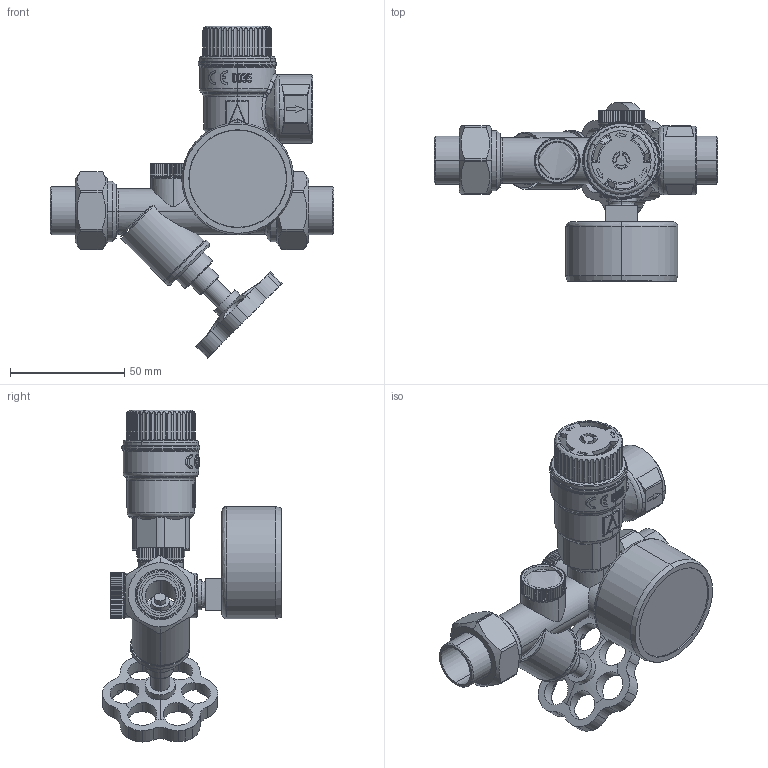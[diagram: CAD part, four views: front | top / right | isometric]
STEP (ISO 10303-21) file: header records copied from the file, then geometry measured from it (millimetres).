
FILE_DESCRIPTION (( 'STEP AP214' ), '1' );
FILE_NAME ('77999.STEP', '2022-05-16T12:06:56', ( '' ), ( '' ), 'SwSTEP 2.0', 'SolidWorks 2021', '' );
FILE_SCHEMA (( 'AUTOMOTIVE_DESIGN' ));
Length unit declared in the file: millimetre
Products named in the file (25): MANO; FEDERTRAEGER; 02_O-Ring; SPINDEL; Kst-Verschlussschraube G1_4 inkl. O-Ring_05 01 000678_2; MUTTER_2; 05 00 270001-(09-2)_Geh_X_E4use f_X_FCr BSG DN15; LOTMUFFE; 02_O-Ring_2; VERSCHRAUBUNG; Si-Ventil Rp1_2 x Rp3_4, 6 bar_Baugruppe; Manopola-5000-Novasfer-NUOVA; LOTMUFFE_2; Kst-Verschlussschraube G1_4 inkl. O-Ring_05 01 000678; Geh_X_E4use Rp1_2xRp3_4_05 01 000760; MUTTER; GRIFF; BSG-DN-15; 77999; RV; MANO-GEH; VENTIL-OBERTEIL
Assembly tree (24 placements, depth 5):
  77999
    BSG-DN-15
      RV
        MANO
          MANO
          FEDERTRAEGER
          MANO-GEH
      MUTTER
      MUTTER_2
      LOTMUFFE
      LOTMUFFE_2
      VENTIL-OBERTEIL
        SPINDEL
        VERSCHRAUBUNG
        GRIFF
    05 00 270001-(09-2)_Geh_X_E4use f_X_FCr BSG DN15
    Kst-Verschlussschraube G1_4 inkl. O-Ring_05 01 000678
      Kst-Verschlussschraube G1_4 inkl. O-Ring_05 01 000678
      02_O-Ring
    Kst-Verschlussschraube G1_4 inkl. O-Ring_05 01 000678_2
      Kst-Verschlussschraube G1_4 inkl. O-Ring_05 01 000678_2
      02_O-Ring_2
    Si-Ventil Rp1_2 x Rp3_4, 6 bar_Baugruppe
      Geh_X_E4use Rp1_2xRp3_4_05 01 000760
      Manopola-5000-Novasfer-NUOVA
Bounding box: 124 x 77.99 x 145.08 mm (x, y, z)
Volume: 124001.2 mm3; surface area: 68865.1 mm2
Topology: 15 solids, 19 shells, 1285 faces, 3445 edges, 2231 vertices
Faces by surface type: plane 529, cylinder 407, bspline 191, cone 154, torus 4
Entity records: 69940 total; most frequent: CARTESIAN_POINT 25480, ORIENTED_EDGE 6814, DIRECTION 5228, EDGE_CURVE 3445, VERTEX_POINT 2231, AXIS2_PLACEMENT_3D 2015, EDGE_LOOP 1386, UNCERTAINTY_MEASURE_WITH_UNIT 1342
